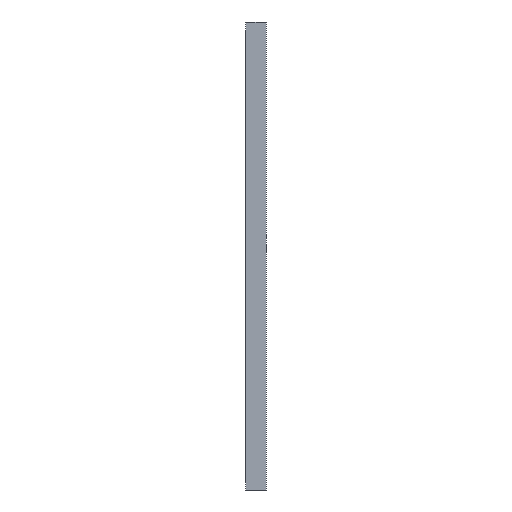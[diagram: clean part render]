
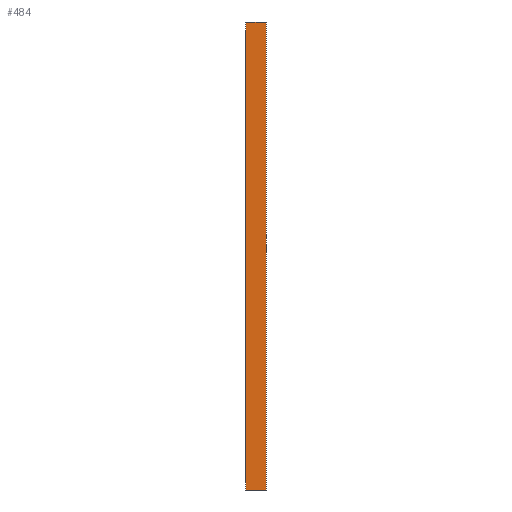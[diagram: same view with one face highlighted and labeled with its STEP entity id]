
A CAD part, left-side view. The second image highlights one B-rep face of the part: STEP entity #484.
In plain terms, the highlighted planar face has unit normal (-1, 0, 0).
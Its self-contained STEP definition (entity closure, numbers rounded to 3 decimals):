
#17 = VERTEX_POINT ( 'NONE', #822 ) ;
#80 = ORIENTED_EDGE ( 'NONE', *, *, #964, .T. ) ;
#108 = CARTESIAN_POINT ( 'NONE',  ( -8., 0., 279. ) ) ;
#188 = CARTESIAN_POINT ( 'NONE',  ( -8., 3.2, 279. ) ) ;
#198 = CARTESIAN_POINT ( 'NONE',  ( -8., 12.5, 279. ) ) ;
#260 = CARTESIAN_POINT ( 'NONE',  ( -8., 0., 0. ) ) ;
#287 = EDGE_CURVE ( 'NONE', #1256, #450, #634, .T. ) ;
#331 = LINE ( 'NONE', #108, #944 ) ;
#334 = CARTESIAN_POINT ( 'NONE',  ( -8., 12.5, 279. ) ) ;
#354 = VECTOR ( 'NONE', #834, 1000. ) ;
#360 = CARTESIAN_POINT ( 'NONE',  ( -8., 0., 0. ) ) ;
#376 = EDGE_CURVE ( 'NONE', #1256, #1236, #558, .T. ) ;
#406 = VECTOR ( 'NONE', #1523, 1000. ) ;
#416 = EDGE_CURVE ( 'NONE', #450, #17, #331, .T. ) ;
#435 = ORIENTED_EDGE ( 'NONE', *, *, #502, .T. ) ;
#450 = VERTEX_POINT ( 'NONE', #1538 ) ;
#455 = CARTESIAN_POINT ( 'NONE',  ( -8., 0., 279. ) ) ;
#461 = LINE ( 'NONE', #596, #354 ) ;
#472 = ORIENTED_EDGE ( 'NONE', *, *, #975, .F. ) ;
#484 = ADVANCED_FACE ( 'NONE', ( #1316 ), #1293, .T. ) ;
#502 = EDGE_CURVE ( 'NONE', #1070, #1387, #1304, .T. ) ;
#518 = VECTOR ( 'NONE', #1092, 1000. ) ;
#528 = CARTESIAN_POINT ( 'NONE',  ( -8., 0., 279. ) ) ;
#532 = EDGE_CURVE ( 'NONE', #779, #1387, #593, .T. ) ;
#547 = DIRECTION ( 'NONE',  ( -1., 0., 0. ) ) ;
#558 = LINE ( 'NONE', #1050, #1093 ) ;
#593 = LINE ( 'NONE', #360, #1268 ) ;
#594 = EDGE_LOOP ( 'NONE', ( #472, #80, #1046, #908, #1527, #1366, #435, #803 ) ) ;
#596 = CARTESIAN_POINT ( 'NONE',  ( -8., 12.5, 279. ) ) ;
#631 = AXIS2_PLACEMENT_3D ( 'NONE', #455, #547, #1057 ) ;
#634 = LINE ( 'NONE', #528, #1488 ) ;
#744 = VECTOR ( 'NONE', #1225, 1000. ) ;
#748 = LINE ( 'NONE', #983, #744 ) ;
#779 = VERTEX_POINT ( 'NONE', #952 ) ;
#786 = EDGE_CURVE ( 'NONE', #1236, #1070, #461, .T. ) ;
#803 = ORIENTED_EDGE ( 'NONE', *, *, #532, .F. ) ;
#822 = CARTESIAN_POINT ( 'NONE',  ( -8., 0., 0. ) ) ;
#834 = DIRECTION ( 'NONE',  ( 0., 1., 0. ) ) ;
#856 = LINE ( 'NONE', #260, #518 ) ;
#908 = ORIENTED_EDGE ( 'NONE', *, *, #287, .F. ) ;
#944 = VECTOR ( 'NONE', #1532, 1000. ) ;
#952 = CARTESIAN_POINT ( 'NONE',  ( -8., 9.3, 0. ) ) ;
#964 = EDGE_CURVE ( 'NONE', #1061, #17, #748, .T. ) ;
#975 = EDGE_CURVE ( 'NONE', #1061, #779, #856, .T. ) ;
#983 = CARTESIAN_POINT ( 'NONE',  ( -8., 0., 0. ) ) ;
#1023 = DIRECTION ( 'NONE',  ( 0., -1., 0. ) ) ;
#1046 = ORIENTED_EDGE ( 'NONE', *, *, #416, .F. ) ;
#1050 = CARTESIAN_POINT ( 'NONE',  ( -8., 0., 279. ) ) ;
#1057 = DIRECTION ( 'NONE',  ( 0., 0., 1. ) ) ;
#1058 = CARTESIAN_POINT ( 'NONE',  ( -8., 3.2, 0. ) ) ;
#1061 = VERTEX_POINT ( 'NONE', #1058 ) ;
#1062 = CARTESIAN_POINT ( 'NONE',  ( -8., 9.3, 279. ) ) ;
#1070 = VERTEX_POINT ( 'NONE', #334 ) ;
#1092 = DIRECTION ( 'NONE',  ( 0., 1., 0. ) ) ;
#1093 = VECTOR ( 'NONE', #1190, 1000. ) ;
#1190 = DIRECTION ( 'NONE',  ( 0., 1., 0. ) ) ;
#1225 = DIRECTION ( 'NONE',  ( 0., -1., 0. ) ) ;
#1236 = VERTEX_POINT ( 'NONE', #1062 ) ;
#1256 = VERTEX_POINT ( 'NONE', #188 ) ;
#1268 = VECTOR ( 'NONE', #1469, 1000. ) ;
#1293 = PLANE ( 'NONE',  #631 ) ;
#1304 = LINE ( 'NONE', #198, #406 ) ;
#1316 = FACE_OUTER_BOUND ( 'NONE', #594, .T. ) ;
#1366 = ORIENTED_EDGE ( 'NONE', *, *, #786, .T. ) ;
#1376 = CARTESIAN_POINT ( 'NONE',  ( -8., 12.5, 0. ) ) ;
#1387 = VERTEX_POINT ( 'NONE', #1376 ) ;
#1469 = DIRECTION ( 'NONE',  ( 0., 1., 0. ) ) ;
#1488 = VECTOR ( 'NONE', #1023, 1000. ) ;
#1523 = DIRECTION ( 'NONE',  ( 0., 0., -1. ) ) ;
#1527 = ORIENTED_EDGE ( 'NONE', *, *, #376, .T. ) ;
#1532 = DIRECTION ( 'NONE',  ( 0., 0., -1. ) ) ;
#1538 = CARTESIAN_POINT ( 'NONE',  ( -8., 0., 279. ) ) ;
